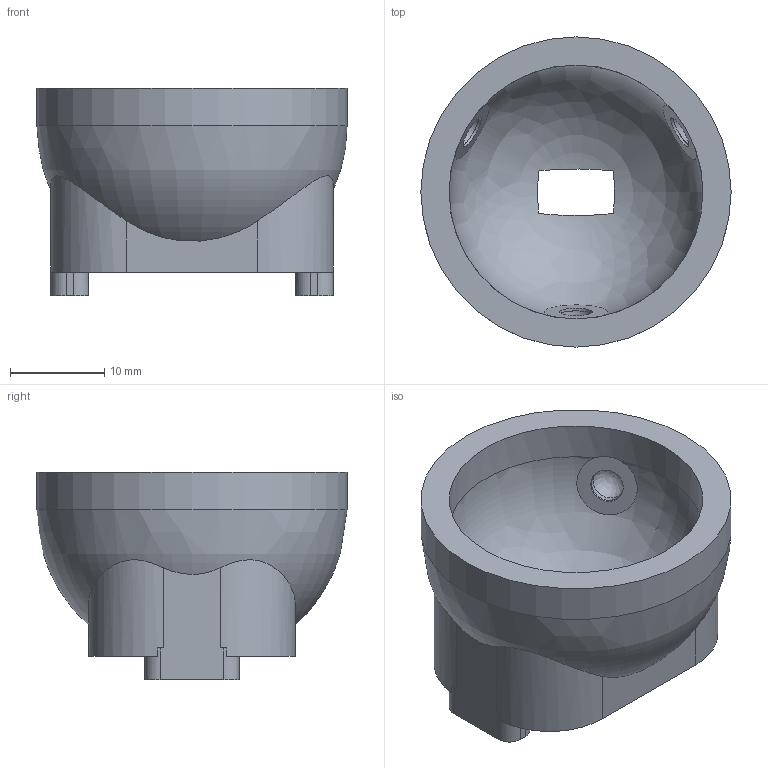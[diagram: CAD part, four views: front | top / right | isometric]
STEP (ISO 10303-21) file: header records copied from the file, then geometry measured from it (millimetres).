
FILE_DESCRIPTION(('Open CASCADE Model'),'2;1');
FILE_NAME('Open CASCADE Shape Model','2026-05-31T19:43:00',('Author'),( 'Open CASCADE'),'Open CASCADE STEP processor 7.6','Open CASCADE 7.6' ,'Unknown');
FILE_SCHEMA(('AP242_MANAGED_MODEL_BASED_3D_ENGINEERING_MIM_LF. {1 0 10303 442 1 1 4 }'));
Length unit declared in the file: millimetre
Products named in the file (1): Open CASCADE STEP translator 7.6 5
Bounding box: 33 x 33 x 22.1 mm (x, y, z)
Volume: 6730.4 mm3; surface area: 4680.2 mm2
Topology: 1 solids, 1 shells, 85 faces, 229 edges, 149 vertices
Faces by surface type: plane 43, cylinder 28, revolution 8, bspline 4, cone 2
Full cylindrical faces by diameter (mm): 2.05 x2, 3.57 x3, 3.572 x3, 27 x1, 33 x1
Entity records: 10126 total; most frequent: CARTESIAN_POINT 5694, DIRECTION 803, ORIENTED_EDGE 448, PCURVE 448, DEFINITIONAL_REPRESENTATION 448, LINE 425, VECTOR 425, EDGE_CURVE 224
